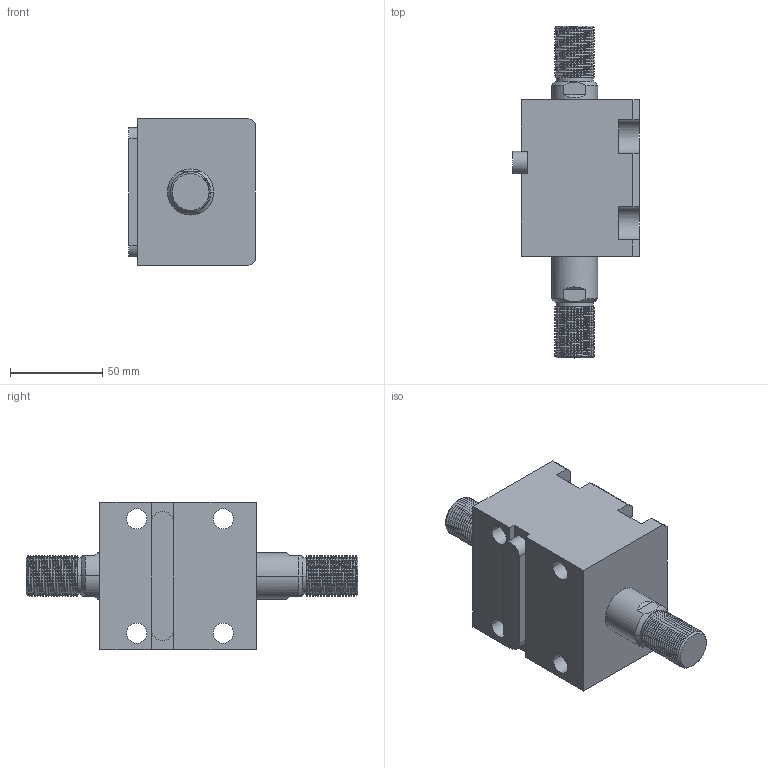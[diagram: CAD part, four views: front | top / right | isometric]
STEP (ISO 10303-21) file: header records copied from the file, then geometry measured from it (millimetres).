
FILE_DESCRIPTION (( 'STEP AP214' ), '1' );
FILE_NAME ('chtb-lw40x15w_asm.STEP', '2018-06-04T06:22:55', ( 'Windows' ), ( 'Microsoft' ), 'SwSTEP 2.0', 'SolidWorks 2015', '' );
FILE_SCHEMA (( 'AUTOMOTIVE_DESIGN' ));
Length unit declared in the file: millimetre
Products named in the file (5): CHTB-SW40X15NHSG; CHTB-SD40QG; CHTB-LW40X15NBT; CHTB-LA40PJ; chtb-lw40x15w_asm
Assembly tree (4 placements, depth 2):
  chtb-lw40x15w_asm
    CHTB-LA40PJ
    CHTB-LW40X15NBT
    CHTB-SD40QG
    CHTB-SW40X15NHSG
Bounding box: 68.5 x 180 x 80 mm (x, y, z)
Volume: 426024 mm3; surface area: 85686.1 mm2
Topology: 4 solids, 4 shells, 258 faces, 711 edges, 473 vertices
Faces by surface type: cylinder 152, plane 59, bspline 18, cone 17, torus 12
Entity records: 17539 total; most frequent: CARTESIAN_POINT 11292, ORIENTED_EDGE 1410, DIRECTION 1124, EDGE_CURVE 705, VERTEX_POINT 473, AXIS2_PLACEMENT_3D 433, EDGE_LOOP 292, ADVANCED_FACE 258
